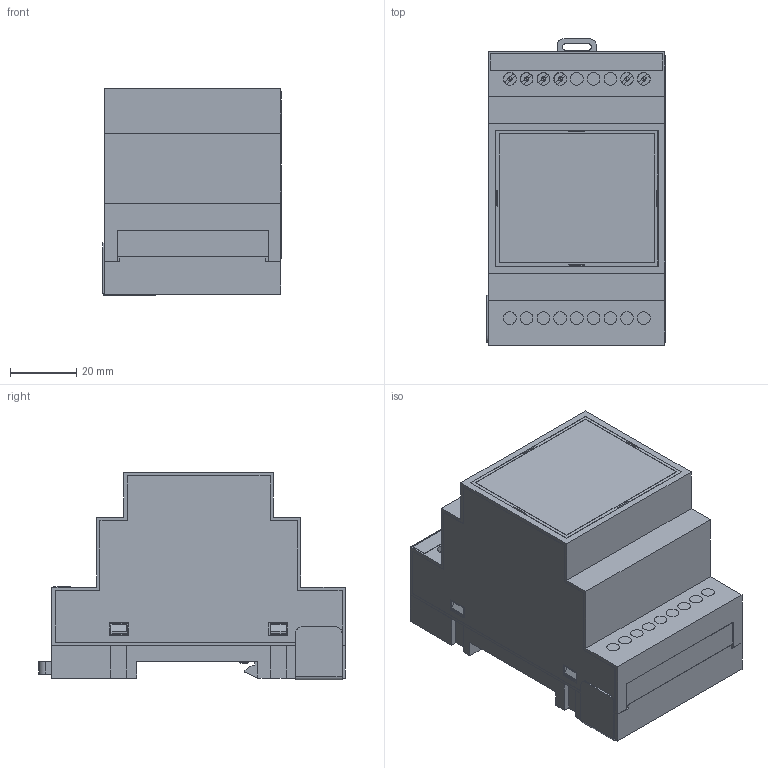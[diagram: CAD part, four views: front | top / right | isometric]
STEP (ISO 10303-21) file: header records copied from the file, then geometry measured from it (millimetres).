
FILE_DESCRIPTION(/* description */ (''),/* implementation_level */ '2;1');
FILE_NAME(/* name */ 'D:\WorkIMT\Project IMT\Реле мигания\v2\На сайт\МТ.ФЛОКС-М.XX (сайт).stp',/* time_stamp */ '2023-10-11T15:22:04+03:00',/* author */ ('Admin'),/* organization */ (''),/* preprocessor_version */ 'ST-DEVELOPER v17.2',/* originating_system */ 'Autodesk Inventor 2019',/* authorisation */ '');
FILE_SCHEMA (('AUTOMOTIVE_DESIGN { 1 0 10303 214 3 1 1 }'));
Length unit declared in the file: millimetre
Products named in the file (20): МТ.ФЛОКС-М.
XX; Корпус х3; Дно х3; MT.FLOX-M.FP.01; MT.FLOX-M.TS.01; MT.FLOX-M.RS.01; MT.FLOX-M.LS.01; MT.FLOX-M.NS.01; Board1; Board1_BoardAndModels; DesignRootModel; uid__4; Submodel-KSE-500-5.08-02P-T_part_KSE-500-5.08-02P-T; Submodel-C_WDIREEVX.1.1EEVX.1.1DxProjectsBlink_RelayBLayout3DImported
PartModelspxc_1729128_09_MKDSN-1-5-2-5-08_3D_lpar_2_rpar_.stp; pxc_1729128_09_MKDSN-1-5-2-5-08_3D(2).stp; Защёлка; Саморез DIN 7981 PH 2,9х6
,5; Вставка для 
корпусов (141-161); Вставка для 
корпусов (141-161) 3; Термомарк 6002-3214
-ТТ
Assembly tree (24 placements, depth 7):
  МТ.ФЛОКС-М.
XX
    Корпус х3
    Дно х3
    MT.FLOX-M.FP.01
    MT.FLOX-M.TS.01
    MT.FLOX-M.RS.01
    MT.FLOX-M.LS.01
    MT.FLOX-M.NS.01
    Board1
      Board1_BoardAndModels
        DesignRootModel
          uid__4
          Submodel-KSE-500-5.08-02P-T_part_KSE-500-5.08-02P-T  x3
            Submodel-C_WDIREEVX.1.1EEVX.1.1DxProjectsBlink_RelayBLayout3DImported
PartModelspxc_1729128_09_MKDSN-1-5-2-5-08_3D_lpar_2_rpar_.stp
              pxc_1729128_09_MKDSN-1-5-2-5-08_3D(2).stp
    Защёлка
    Саморез DIN 7981 PH 2,9х6
,5  x4
    Вставка для 
корпусов (141-161)
    Вставка для 
корпусов (141-161) 3
    Термомарк 6002-3214
-ТТ
Bounding box: 53.7 x 92.35 x 62.5 mm (x, y, z)
Volume: 59160.1 mm3; surface area: 82333 mm2
Topology: 19 solids, 19 shells, 1263 faces, 3372 edges, 2213 vertices
Faces by surface type: plane 1030, cylinder 209, cone 10, torus 6, sphere 6, bspline 2
Full cylindrical faces by diameter (mm): 0.457 x3, 0.8 x2, 1 x8, 1.1 x2, 1.2 x5, 1.3 x6, 1.6 x6, 2.4 x1, 2.9 x4, 3.2 x4, 3.8 x36, 3.83 x6, 5 x4, 5.6 x4
Entity records: 30162 total; most frequent: CARTESIAN_POINT 5089, ORIENTED_EDGE 4952, DIRECTION 4746, EDGE_CURVE 2476, LINE 2090, VECTOR 2090, VERTEX_POINT 1635, AXIS2_PLACEMENT_3D 1328
